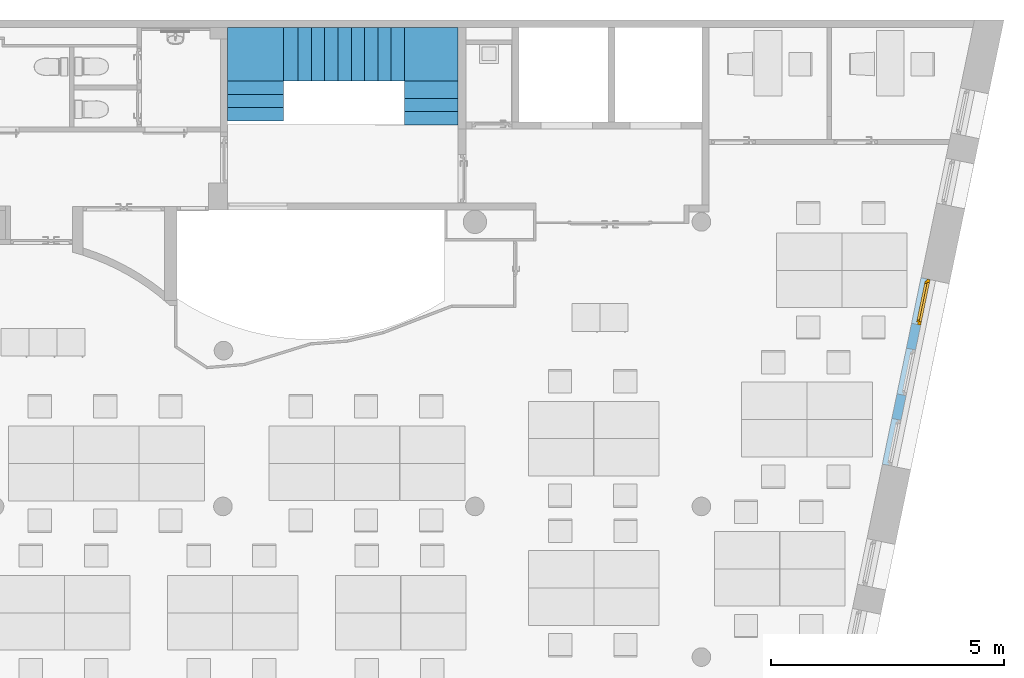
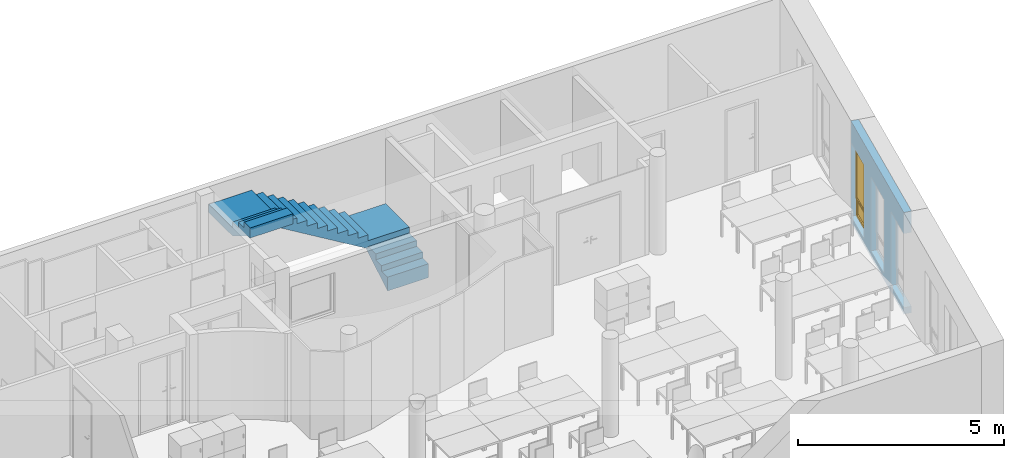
"""IFC4 building model written with IfcOpenShell, lengths in metres."""

from ifc_helpers import new_model, entity, si_unit, converted_unit, derived_unit, frame, frame_2d, origin, origin_with_axes, place, context, subcontext, project, spatial, polyline, rectangle, outline, extrude, closed_shell, open_shell, faceted_brep, surface_model, source, transform, mapped, material, layer, layer_set, layer_usage, type_object, element, fill, save


model = new_model("IFC4")

# Units and contexts
model_context = context("Model", 3, precision=1e-05, world=origin())
body_context = subcontext(model_context, "Body", "Model", "MODEL_VIEW")
ifc_project = project(units=[si_unit("LENGTHUNIT", "METRE"), si_unit("AREAUNIT", "SQUARE_METRE"), si_unit("VOLUMEUNIT", "CUBIC_METRE"), si_unit("MASSUNIT", "GRAM", prefix="KILO"), converted_unit("PLANEANGLEUNIT", "DEGREE", entity("IfcPlaneAngleMeasure", 0.0174532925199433), si_unit("PLANEANGLEUNIT", "RADIAN"), dimensions=[0, 0, 0, 0, 0, 0, 0]), derived_unit("THERMALTRANSMITTANCEUNIT", [(si_unit("POWERUNIT", "WATT"), 1), (si_unit("THERMODYNAMICTEMPERATUREUNIT", "KELVIN"), -1), (si_unit("LENGTHUNIT", "METRE"), -2)]), derived_unit("VOLUMETRICFLOWRATEUNIT", [(si_unit("LENGTHUNIT", "METRE"), 3), (converted_unit("TIMEUNIT", "hour", entity("IfcTimeMeasure", 3600.0), si_unit("TIMEUNIT", "SECOND"), dimensions=[0, 0, 1, 0, 0, 0, 0]), -1), (si_unit("LENGTHUNIT", "METRE"), -1)])], contexts=[model_context])

# Building, storeys
building_placement = place(None, origin())
building = spatial("IfcBuilding", under=ifc_project, at=building_placement, Name="HABITATGE PLURIFAMILIAR", CompositionType="ELEMENT")
storey_1_placement = place(building_placement, frame((0.0, 0.0, 18.29)))
storey_1 = spatial("IfcBuildingStorey", under=building, at=storey_1_placement, Name="PLANTA CINQUENA", CompositionType="ELEMENT", Elevation=18.29)
storey_2_placement = place(storey_1_placement, frame((0.0, 0.0, 15.28)))
storey_2 = spatial("IfcBuildingStorey", under=storey_1, at=storey_2_placement, Name="NOU", CompositionType="PARTIAL")

# Wall, openings, door
ifc_material_1 = material()
ifc_layer = layer(ifc_material_1, 0.199999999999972)
ifc_layer_set = layer_set([ifc_layer])
ifc_layer_usage = layer_usage(ifc_layer_set, "AXIS2", "POSITIVE", 0.0)
wall_placement = place(storey_2_placement, frame((425.70056364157, 22.7054025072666, -15.38), z_axis=(0.0, 0.0, 1.0), x_axis=(-0.202727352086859, -0.979235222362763, 0.0)))
wall = element("IfcWall", 1, at=wall_placement, inside=storey_2, material=ifc_layer_usage, Name="Façana sur-est P5", context=body_context, shape_type="SweptSolid", body=[
    extrude(rectangle(XDim=4.0830109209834, YDim=0.199999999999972, at=frame_2d((2.0415054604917, 0.0999999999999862), x_axis=(1.0, 0.0))), origin_with_axes(), (0.0, 0.0, 1.0), 3.01),
])
opening_1_placement = place(wall_placement, frame((4.0830109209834, 0.19999999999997, 0.19), z_axis=(-1.13686837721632e-14, -1.0, 0.0), x_axis=(0.0, 0.0, 1.0)))
element("IfcOpeningElement", 2, at=opening_1_placement, cuts=wall, Name="Vano finestra P5", ObjectType="Opening", context=body_context, shape_type="SweptSolid", body=[
    extrude(outline(polyline([(2.19, 1.0), (2.19, 0.0), (0.0, 0.0), (0.0, 1.0), (2.19, 1.0)])), origin_with_axes(), (0.0, 0.0, 1.0), 0.199999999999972),
])
opening_2_placement = place(wall_placement, frame((2.54368981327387, 0.199999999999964, 0.19), z_axis=(-1.13686837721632e-14, -1.0, 0.0), x_axis=(0.0, 0.0, 1.0)))
element("IfcOpeningElement", 3, at=opening_2_placement, cuts=wall, Name="Vano finestra P5", ObjectType="Opening", context=body_context, shape_type="SweptSolid", body=[
    extrude(outline(polyline([(2.19, 1.0), (2.19, 0.0), (0.0, 0.0), (0.0, 1.0), (2.19, 1.0)])), origin_with_axes(), (0.0, 0.0, 1.0), 0.199999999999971),
])
opening_3_placement = place(wall_placement, frame((0.999999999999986, 0.199999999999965, 0.19), z_axis=(6.82121026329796e-15, -1.0, 0.0), x_axis=(0.0, 0.0, 1.0)))
opening_3 = element("IfcOpeningElement", 4, at=opening_3_placement, cuts=wall, Name="Vano finestra P5", ObjectType="Opening", context=body_context, shape_type="SweptSolid", body=[
    extrude(outline(polyline([(2.19, 0.996324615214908), (2.19, 0.0), (0.0, 0.0), (0.0, 0.996324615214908), (2.19, 0.996324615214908)])), origin_with_axes(), (0.0, 0.0, 1.0), 0.199999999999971),
])
door_type = type_object("IfcDoorType", Name="Finestra P5", OperationType="NOTDEFINED", ParameterTakesPrecedence=False, PredefinedType="DOOR")
shared_shape = source(origin_with_axes(), body_context, "Body", "SurfaceModel", [
    surface_model("IfcShellBasedSurfaceModel", [(0.0, 0.0700000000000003, 2.19), (0.0, 0.07, 0.0), (0.07, 0.07, 0.0), (0.07, 0.0700000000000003, 2.19), (0.0, 0.0, 0.0), (0.0, 0.0, 2.19), (0.07, 0.0, 2.19), (0.07, 0.0, 0.0)], [closed_shell([[[0, 1, 2, 3]], [[4, 5, 6, 7]], [[1, 0, 5, 4]], [[2, 1, 4, 7]], [[3, 2, 7, 6]], [[0, 3, 6, 5]]], orient=[[False], [False], [False], [False], [False], [False]])]),
    surface_model("IfcShellBasedSurfaceModel", [(0.926324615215, 0.0700000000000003, 2.19), (0.926324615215, 0.07, 0.0), (0.996324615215, 0.07, 0.0), (0.996324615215, 0.0700000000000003, 2.19), (0.926324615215, 0.0, 0.0), (0.926324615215, 0.0, 2.19), (0.996324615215, 0.0, 2.19), (0.996324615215, 0.0, 0.0)], [closed_shell([[[0, 1, 2, 3]], [[4, 5, 6, 7]], [[1, 0, 5, 4]], [[2, 1, 4, 7]], [[3, 2, 7, 6]], [[0, 3, 6, 5]]], orient=[[False], [False], [False], [False], [False], [False]])]),
    surface_model("IfcShellBasedSurfaceModel", [(0.07, 0.07, 0.07), (0.07, 0.07, 0.0), (0.926324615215, 0.07, 0.0), (0.926324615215, 0.07, 0.07), (0.07, 0.0, 0.0), (0.07, 0.0, 0.07), (0.926324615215, 0.0, 0.07), (0.926324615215, 0.0, 0.0)], [closed_shell([[[0, 1, 2, 3]], [[4, 5, 6, 7]], [[1, 0, 5, 4]], [[2, 1, 4, 7]], [[3, 2, 7, 6]], [[0, 3, 6, 5]]], orient=[[False], [False], [False], [False], [False], [False]])]),
    surface_model("IfcShellBasedSurfaceModel", [(0.07, 0.0700000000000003, 2.19), (0.07, 0.0700000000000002, 2.12), (0.926324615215, 0.0700000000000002, 2.12), (0.926324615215, 0.0700000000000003, 2.19), (0.07, 0.0, 2.12), (0.07, 0.0, 2.19), (0.926324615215, 0.0, 2.19), (0.926324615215, 0.0, 2.12)], [closed_shell([[[0, 1, 2, 3]], [[4, 5, 6, 7]], [[1, 0, 5, 4]], [[2, 1, 4, 7]], [[3, 2, 7, 6]], [[0, 3, 6, 5]]], orient=[[False], [False], [False], [False], [False], [False]])]),
    surface_model("IfcShellBasedSurfaceModel", [(0.07, 0.035, 0.07), (0.926324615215, 0.035, 0.07), (0.926324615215, 0.0350000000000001, 0.57), (0.07, 0.0350000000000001, 0.57)], [open_shell([[[0, 1, 2, 3]]], orient=[[False]])]),
    surface_model("IfcShellBasedSurfaceModel", [(0.05, 0.1, 2.14), (0.05, 0.1, 0.551), (0.1, 0.1, 0.551), (0.1, 0.1, 2.14), (0.05, 0.0500000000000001, 0.551), (0.05, 0.0500000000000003, 2.14), (0.1, 0.0500000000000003, 2.14), (0.1, 0.0500000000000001, 0.551)], [closed_shell([[[0, 1, 2, 3]], [[4, 5, 6, 7]], [[1, 0, 5, 4]], [[2, 1, 4, 7]], [[3, 2, 7, 6]], [[0, 3, 6, 5]]], orient=[[False], [False], [False], [False], [False], [False]])]),
    surface_model("IfcShellBasedSurfaceModel", [(0.896324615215, 0.1, 2.14), (0.896324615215, 0.1, 0.551), (0.946324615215, 0.1, 0.551), (0.946324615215, 0.1, 2.14), (0.896324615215, 0.0500000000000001, 0.551), (0.896324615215, 0.0500000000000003, 2.14), (0.946324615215, 0.0500000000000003, 2.14), (0.946324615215, 0.0500000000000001, 0.551)], [closed_shell([[[0, 1, 2, 3]], [[4, 5, 6, 7]], [[1, 0, 5, 4]], [[2, 1, 4, 7]], [[3, 2, 7, 6]], [[0, 3, 6, 5]]], orient=[[False], [False], [False], [False], [False], [False]])]),
    surface_model("IfcShellBasedSurfaceModel", [(0.1, 0.1, 0.601), (0.1, 0.1, 0.551), (0.896324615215, 0.1, 0.551), (0.896324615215, 0.1, 0.601), (0.1, 0.0500000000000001, 0.551), (0.1, 0.0500000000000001, 0.601), (0.896324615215, 0.0500000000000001, 0.601), (0.896324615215, 0.0500000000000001, 0.551)], [closed_shell([[[0, 1, 2, 3]], [[4, 5, 6, 7]], [[1, 0, 5, 4]], [[2, 1, 4, 7]], [[3, 2, 7, 6]], [[0, 3, 6, 5]]], orient=[[False], [False], [False], [False], [False], [False]])]),
    surface_model("IfcShellBasedSurfaceModel", [(0.1, 0.1, 2.14), (0.1, 0.1, 2.09), (0.896324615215, 0.1, 2.09), (0.896324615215, 0.1, 2.14), (0.1, 0.0500000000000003, 2.09), (0.1, 0.0500000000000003, 2.14), (0.896324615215, 0.0500000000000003, 2.14), (0.896324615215, 0.0500000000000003, 2.09)], [closed_shell([[[0, 1, 2, 3]], [[4, 5, 6, 7]], [[1, 0, 5, 4]], [[2, 1, 4, 7]], [[3, 2, 7, 6]], [[0, 3, 6, 5]]], orient=[[False], [False], [False], [False], [False], [False]])]),
    surface_model("IfcShellBasedSurfaceModel", [(0.1, 0.0750000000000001, 0.601), (0.896324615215, 0.0750000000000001, 0.601), (0.896324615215, 0.0750000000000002, 2.09), (0.1, 0.0750000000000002, 2.09)], [open_shell([[[0, 1, 2, 3]]], orient=[[False]])]),
])
door_placement = place(opening_3_placement, frame((0.0, 0.0, 0.0), z_axis=(1.0, 0.0, 0.0), x_axis=(0.0, 0.999999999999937, -6.13120665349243e-14)))
door = element("IfcDoor", 5, at=door_placement, inside=storey_2, type_object=door_type, Name="Finestra P5", OverallHeight=2.19, OverallWidth=0.99632, context=body_context, shape_type="MappedRepresentation", body=[
    mapped(shared_shape, transform((0.0, 0.0, 0.0), x_axis=(1.0, 0.0, 0.0), y_axis=(0.0, 1.0, 0.0), z_axis=(0.0, 0.0, 1.0), scale=0.999999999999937)),
])
fill(opening_3, door)

# Stair
ifc_material_2 = material(Name="*varios*")
stair_placement = place(storey_2_placement, frame((410.827766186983, 25.9803256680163, -15.5182362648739)))
element("IfcStair", 6, at=stair_placement, inside=storey_2, material=ifc_material_2, Name="Peldaño final", PredefinedType="USERDEFINED", context=body_context, shape_type="Brep", body=[
    faceted_brep([(3.79890759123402, 0.00017129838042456, 0.369412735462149), (3.79890759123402, 0.00017129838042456, 0.409412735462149), (4.94890757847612, 0.0, 0.409412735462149), (4.94890757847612, 0.0, 0.369412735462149), (4.94895003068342, 0.28499999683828, 0.409412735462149), (4.94895003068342, 0.28499999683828, 0.369412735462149), (3.79895004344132, 0.285171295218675, 0.409412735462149), (3.79895004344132, 0.285171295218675, 0.369412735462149)], [[[0, 1, 2, 3]], [[3, 2, 4, 5]], [[5, 4, 6, 7]], [[7, 6, 1, 0]], [[0, 3, 5, 7]], [[1, 6, 4, 2]]], orient=[[False], [False], [False], [False], [False], [False]]),
    faceted_brep([(3.79895004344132, 0.285171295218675, 0.540589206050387), (3.79895004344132, 0.285171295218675, 0.580589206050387), (4.94895003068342, 0.28499999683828, 0.580589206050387), (4.94895003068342, 0.28499999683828, 0.540589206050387), (4.94899248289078, 0.569999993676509, 0.580589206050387), (4.94899248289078, 0.569999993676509, 0.540589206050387), (3.79899249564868, 0.57017129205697, 0.580589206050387), (3.79899249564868, 0.57017129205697, 0.540589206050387)], [[[0, 1, 2, 3]], [[3, 2, 4, 5]], [[5, 4, 6, 7]], [[7, 6, 1, 0]], [[0, 3, 5, 7]], [[1, 6, 4, 2]]], orient=[[False], [False], [False], [False], [False], [False]]),
    faceted_brep([(3.79899249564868, 0.57017129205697, 0.711765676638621), (3.79899249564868, 0.57017129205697, 0.751765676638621), (4.94899248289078, 0.569999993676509, 0.751765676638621), (4.94899248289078, 0.569999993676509, 0.711765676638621), (4.9490472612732, 0.937750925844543, 0.751765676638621), (4.9490472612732, 0.937750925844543, 0.711765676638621), (3.79904727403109, 0.937922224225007, 0.751765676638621), (3.79904727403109, 0.937922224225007, 0.711765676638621)], [[[0, 1, 2, 3]], [[3, 2, 4, 5]], [[5, 4, 6, 7]], [[7, 6, 1, 0]], [[0, 3, 5, 7]], [[1, 6, 4, 2]]], orient=[[False], [False], [False], [False], [False], [False]]),
    faceted_brep([(4.9490472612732, 0.937750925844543, 0.711765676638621), (4.94899248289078, 0.569999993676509, 0.711765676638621), (3.79899249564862, 0.57017129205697, 0.711765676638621), (3.79904727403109, 0.937922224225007, 0.711765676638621), (4.94890757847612, 0.0, 0.0), (4.94890757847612, 0.0, 0.369412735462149), (4.94895003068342, 0.28499999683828, 0.369412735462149), (4.94895003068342, 0.28499999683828, 0.540589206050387), (4.94899248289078, 0.569999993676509, 0.540589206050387), (4.9490472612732, 0.937750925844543, 0.682942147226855), (4.94907694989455, 1.13706345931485, 0.682942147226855), (3.79899249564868, 0.57017129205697, 0.540589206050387), (3.79907696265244, 1.13723475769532, 0.682942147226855), (3.79904727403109, 0.937922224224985, 0.682942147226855), (3.79895004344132, 0.285171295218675, 0.540589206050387), (3.79895004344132, 0.285171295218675, 0.369412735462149), (3.79890759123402, 0.00017129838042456, 0.369412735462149), (3.79890759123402, 0.00017129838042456, 0.0)], [[[0, 1, 2, 3]], [[4, 5, 6, 7, 8, 1, 0, 9, 10]], [[1, 8, 11, 2]], [[12, 13, 3, 2, 11, 14, 15, 16, 17]], [[12, 17, 4, 10]], [[13, 12, 10, 9]], [[8, 7, 14, 11]], [[7, 6, 15, 14]], [[6, 5, 16, 15]], [[5, 4, 17, 16]], [[13, 9, 0, 3]]], orient=[[False], [False], [False], [False], [False], [False], [False], [False], [False], [False], [False]]),
    faceted_brep([(3.79904727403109, 0.937922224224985, 0.882942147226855), (3.79904727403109, 0.937922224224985, 0.922942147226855), (4.9490472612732, 0.937750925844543, 0.922942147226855), (4.9490472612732, 0.937750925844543, 0.882942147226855), (4.94921858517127, 2.08792222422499, 0.922942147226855), (4.94921858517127, 2.08792222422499, 0.882942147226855), (3.79904727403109, 2.08792222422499, 0.922942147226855), (3.79904727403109, 2.08792222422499, 0.882942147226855)], [[[0, 1, 2, 3]], [[3, 2, 4, 5]], [[5, 4, 6, 7]], [[7, 6, 1, 0]], [[0, 3, 5, 7]], [[1, 6, 4, 2]]], orient=[[False], [False], [False], [False], [False], [False]]),
    faceted_brep([(3.79904727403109, 0.937922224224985, 0.682942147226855), (3.79904727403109, 0.937922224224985, 0.882942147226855), (4.9490472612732, 0.937750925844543, 0.882942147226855), (4.9490472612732, 0.937750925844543, 0.682942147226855), (4.94921858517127, 2.08792222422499, 0.882942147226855), (4.94921858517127, 2.08792222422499, 0.682942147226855), (3.79904727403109, 2.08792222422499, 0.882942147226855), (3.79904727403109, 2.08792222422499, 0.682942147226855)], [[[0, 1, 2, 3]], [[3, 2, 4, 5]], [[5, 4, 6, 7]], [[7, 6, 1, 0]], [[0, 3, 5, 7]], [[1, 6, 4, 2]]], orient=[[False], [False], [False], [False], [False], [False]]),
    faceted_brep([(3.79904727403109, 0.937922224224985, 1.05411861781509), (3.79904727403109, 0.937922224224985, 1.09411861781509), (3.79904727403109, 2.08792222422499, 1.09411861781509), (3.79904727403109, 2.08792222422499, 1.05411861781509), (3.51404727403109, 2.08792222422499, 1.09411861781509), (3.51404727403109, 2.08792222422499, 1.05411861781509), (3.51404727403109, 0.937922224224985, 1.09411861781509), (3.51404727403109, 0.937922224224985, 1.05411861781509)], [[[0, 1, 2, 3]], [[3, 2, 4, 5]], [[5, 4, 6, 7]], [[7, 6, 1, 0]], [[0, 3, 5, 7]], [[1, 6, 4, 2]]], orient=[[False], [False], [False], [False], [False], [False]]),
    faceted_brep([(3.51404727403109, 0.937922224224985, 1.22529508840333), (3.51404727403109, 0.937922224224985, 1.26529508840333), (3.51404727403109, 2.08792222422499, 1.26529508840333), (3.51404727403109, 2.08792222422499, 1.22529508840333), (3.22904727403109, 2.08792222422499, 1.26529508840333), (3.22904727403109, 2.08792222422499, 1.22529508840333), (3.22904727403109, 0.937922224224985, 1.26529508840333), (3.22904727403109, 0.937922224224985, 1.22529508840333)], [[[0, 1, 2, 3]], [[3, 2, 4, 5]], [[5, 4, 6, 7]], [[7, 6, 1, 0]], [[0, 3, 5, 7]], [[1, 6, 4, 2]]], orient=[[False], [False], [False], [False], [False], [False]]),
    faceted_brep([(3.22904727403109, 0.937922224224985, 1.39647155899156), (3.22904727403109, 0.937922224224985, 1.43647155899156), (3.22904727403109, 2.08792222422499, 1.43647155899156), (3.22904727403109, 2.08792222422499, 1.39647155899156), (2.94404727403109, 2.08792222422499, 1.43647155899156), (2.94404727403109, 2.08792222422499, 1.39647155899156), (2.94404727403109, 0.937922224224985, 1.43647155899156), (2.94404727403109, 0.937922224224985, 1.39647155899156)], [[[0, 1, 2, 3]], [[3, 2, 4, 5]], [[5, 4, 6, 7]], [[7, 6, 1, 0]], [[0, 3, 5, 7]], [[1, 6, 4, 2]]], orient=[[False], [False], [False], [False], [False], [False]]),
    faceted_brep([(2.94404727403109, 0.937922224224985, 1.5676480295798), (2.94404727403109, 0.937922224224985, 1.6076480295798), (2.94404727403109, 2.08792222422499, 1.6076480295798), (2.94404727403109, 2.08792222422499, 1.5676480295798), (2.65904727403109, 2.08792222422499, 1.6076480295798), (2.65904727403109, 2.08792222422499, 1.5676480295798), (2.65904727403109, 0.937922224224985, 1.6076480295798), (2.65904727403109, 0.937922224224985, 1.5676480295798)], [[[0, 1, 2, 3]], [[3, 2, 4, 5]], [[5, 4, 6, 7]], [[7, 6, 1, 0]], [[0, 3, 5, 7]], [[1, 6, 4, 2]]], orient=[[False], [False], [False], [False], [False], [False]]),
    faceted_brep([(2.65904727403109, 0.937922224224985, 1.73882450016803), (2.65904727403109, 0.937922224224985, 1.77882450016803), (2.65904727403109, 2.08792222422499, 1.77882450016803), (2.65904727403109, 2.08792222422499, 1.73882450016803), (2.37404727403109, 2.08792222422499, 1.77882450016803), (2.37404727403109, 2.08792222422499, 1.73882450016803), (2.37404727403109, 0.937922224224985, 1.77882450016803), (2.37404727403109, 0.937922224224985, 1.73882450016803)], [[[0, 1, 2, 3]], [[3, 2, 4, 5]], [[5, 4, 6, 7]], [[7, 6, 1, 0]], [[0, 3, 5, 7]], [[1, 6, 4, 2]]], orient=[[False], [False], [False], [False], [False], [False]]),
    faceted_brep([(2.37404727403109, 0.937922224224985, 1.91000097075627), (2.37404727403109, 0.937922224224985, 1.95000097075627), (2.37404727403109, 2.08792222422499, 1.95000097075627), (2.37404727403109, 2.08792222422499, 1.91000097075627), (2.08904727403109, 2.08792222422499, 1.95000097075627), (2.08904727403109, 2.08792222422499, 1.91000097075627), (2.08904727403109, 0.937922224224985, 1.95000097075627), (2.08904727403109, 0.937922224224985, 1.91000097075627)], [[[0, 1, 2, 3]], [[3, 2, 4, 5]], [[5, 4, 6, 7]], [[7, 6, 1, 0]], [[0, 3, 5, 7]], [[1, 6, 4, 2]]], orient=[[False], [False], [False], [False], [False], [False]]),
    faceted_brep([(2.08904727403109, 0.937922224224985, 2.0811774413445), (2.08904727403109, 0.937922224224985, 2.1211774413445), (2.08904727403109, 2.08792222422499, 2.1211774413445), (2.08904727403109, 2.08792222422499, 2.0811774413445), (1.80404727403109, 2.08792222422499, 2.1211774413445), (1.80404727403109, 2.08792222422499, 2.0811774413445), (1.80404727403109, 0.937922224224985, 2.1211774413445), (1.80404727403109, 0.937922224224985, 2.0811774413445)], [[[0, 1, 2, 3]], [[3, 2, 4, 5]], [[5, 4, 6, 7]], [[7, 6, 1, 0]], [[0, 3, 5, 7]], [[1, 6, 4, 2]]], orient=[[False], [False], [False], [False], [False], [False]]),
    faceted_brep([(1.80404727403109, 0.937922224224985, 2.25235391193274), (1.80404727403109, 0.937922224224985, 2.29235391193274), (1.80404727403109, 2.08792222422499, 2.29235391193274), (1.80404727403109, 2.08792222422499, 2.25235391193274), (1.51904727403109, 2.08792222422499, 2.29235391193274), (1.51904727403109, 2.08792222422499, 2.25235391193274), (1.51904727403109, 0.937922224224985, 2.29235391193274), (1.51904727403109, 0.937922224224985, 2.25235391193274)], [[[0, 1, 2, 3]], [[3, 2, 4, 5]], [[5, 4, 6, 7]], [[7, 6, 1, 0]], [[0, 3, 5, 7]], [[1, 6, 4, 2]]], orient=[[False], [False], [False], [False], [False], [False]]),
    faceted_brep([(1.51904727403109, 0.937922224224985, 2.42353038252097), (1.51904727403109, 0.937922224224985, 2.46353038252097), (1.51904727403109, 2.08792222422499, 2.46353038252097), (1.51904727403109, 2.08792222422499, 2.42353038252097), (1.19984509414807, 2.08792222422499, 2.46353038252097), (1.19984509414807, 2.08792222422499, 2.42353038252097), (1.19984509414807, 0.937922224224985, 2.46353038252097), (1.19984509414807, 0.937922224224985, 2.42353038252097)], [[[0, 1, 2, 3]], [[3, 2, 4, 5]], [[5, 4, 6, 7]], [[7, 6, 1, 0]], [[0, 3, 5, 7]], [[1, 6, 4, 2]]], orient=[[False], [False], [False], [False], [False], [False]]),
    faceted_brep([(1.19984509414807, 2.08792222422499, 2.42353038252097), (1.51904727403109, 2.08792222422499, 2.42353038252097), (1.51904727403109, 0.937922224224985, 2.42353038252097), (1.19984509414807, 0.937922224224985, 2.42353038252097), (3.79904727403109, 2.08792222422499, 0.684705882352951), (3.79904727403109, 2.08792222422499, 1.05411861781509), (3.51404727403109, 2.08792222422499, 1.05411861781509), (3.51404727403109, 2.08792222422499, 1.22529508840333), (3.22904727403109, 2.08792222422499, 1.22529508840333), (3.22904727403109, 2.08792222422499, 1.39647155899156), (2.94404727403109, 2.08792222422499, 1.39647155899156), (2.94404727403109, 2.08792222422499, 1.5676480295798), (2.65904727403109, 2.08792222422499, 1.5676480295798), (2.65904727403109, 2.08792222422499, 1.73882450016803), (2.37404727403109, 2.08792222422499, 1.73882450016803), (2.37404727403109, 2.08792222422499, 1.91000097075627), (2.08904727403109, 2.08792222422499, 1.91000097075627), (2.08904727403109, 2.08792222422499, 2.0811774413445), (1.80404727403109, 2.08792222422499, 2.0811774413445), (1.80404727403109, 2.08792222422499, 2.25235391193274), (1.51904727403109, 2.08792222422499, 2.25235391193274), (1.19984509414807, 2.08792222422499, 2.39470685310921), (0.951983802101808, 2.08792222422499, 2.39470685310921), (1.51904727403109, 0.937922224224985, 2.25235391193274), (0.951983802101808, 0.937922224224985, 2.39470685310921), (1.19984509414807, 0.937922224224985, 2.39470685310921), (1.80404727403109, 0.937922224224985, 2.25235391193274), (1.80404727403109, 0.937922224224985, 2.0811774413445), (2.08904727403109, 0.937922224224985, 2.0811774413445), (2.08904727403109, 0.937922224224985, 1.91000097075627), (2.37404727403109, 0.937922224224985, 1.91000097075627), (2.37404727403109, 0.937922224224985, 1.73882450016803), (2.65904727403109, 0.937922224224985, 1.73882450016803), (2.65904727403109, 0.937922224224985, 1.5676480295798), (2.94404727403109, 0.937922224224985, 1.5676480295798), (2.94404727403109, 0.937922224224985, 1.39647155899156), (3.22904727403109, 0.937922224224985, 1.39647155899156), (3.22904727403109, 0.937922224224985, 1.22529508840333), (3.51404727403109, 0.937922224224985, 1.22529508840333), (3.51404727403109, 0.937922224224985, 1.05411861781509), (3.79904727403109, 0.937922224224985, 1.05411861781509), (3.79904727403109, 0.937922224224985, 0.684705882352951)], [[[0, 1, 2, 3]], [[4, 5, 6, 7, 8, 9, 10, 11, 12, 13, 14, 15, 16, 17, 18, 19, 20, 1, 0, 21, 22]], [[1, 20, 23, 2]], [[24, 25, 3, 2, 23, 26, 27, 28, 29, 30, 31, 32, 33, 34, 35, 36, 37, 38, 39, 40, 41]], [[24, 41, 4, 22]], [[25, 24, 22, 21]], [[20, 19, 26, 23]], [[19, 18, 27, 26]], [[18, 17, 28, 27]], [[17, 16, 29, 28]], [[16, 15, 30, 29]], [[15, 14, 31, 30]], [[14, 13, 32, 31]], [[13, 12, 33, 32]], [[12, 11, 34, 33]], [[11, 10, 35, 34]], [[10, 9, 36, 35]], [[9, 8, 37, 36]], [[8, 7, 38, 37]], [[7, 6, 39, 38]], [[6, 5, 40, 39]], [[5, 4, 41, 40]], [[25, 21, 0, 3]]], orient=[[False], [False], [False], [False], [False], [False], [False], [False], [False], [False], [False], [False], [False], [False], [False], [False], [False], [False], [False], [False], [False], [False], [False]]),
    faceted_brep([(1.19984509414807, 0.937922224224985, 2.59470685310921), (1.19984509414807, 0.937922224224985, 2.63470685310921), (1.19984509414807, 2.08792222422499, 2.63470685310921), (1.19984509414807, 2.08792222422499, 2.59470685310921), (0.0, 2.08792222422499, 2.63470685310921), (0.0, 2.08792222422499, 2.59470685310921), (0.0, 0.937922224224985, 2.63470685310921), (0.0, 0.937922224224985, 2.59470685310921)], [[[0, 1, 2, 3]], [[3, 2, 4, 5]], [[5, 4, 6, 7]], [[7, 6, 1, 0]], [[0, 3, 5, 7]], [[1, 6, 4, 2]]], orient=[[False], [False], [False], [False], [False], [False]]),
    faceted_brep([(1.19984509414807, 0.937922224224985, 2.39470685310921), (1.19984509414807, 0.937922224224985, 2.59470685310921), (1.19984509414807, 2.08792222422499, 2.59470685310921), (1.19984509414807, 2.08792222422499, 2.39470685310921), (0.0, 2.08792222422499, 2.59470685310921), (0.0, 2.08792222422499, 2.39470685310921), (0.0, 0.937922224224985, 2.59470685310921), (0.0, 0.937922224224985, 2.39470685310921)], [[[0, 1, 2, 3]], [[3, 2, 4, 5]], [[5, 4, 6, 7]], [[7, 6, 1, 0]], [[0, 3, 5, 7]], [[1, 6, 4, 2]]], orient=[[False], [False], [False], [False], [False], [False]]),
    faceted_brep([(1.19984509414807, 0.937922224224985, 2.76588332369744), (1.19984509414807, 0.937922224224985, 2.80588332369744), (0.0, 0.937922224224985, 2.80588332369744), (0.0, 0.937922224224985, 2.76588332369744), (0.0, 0.652922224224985, 2.80588332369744), (0.0, 0.652922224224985, 2.76588332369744), (1.19984509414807, 0.652922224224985, 2.80588332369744), (1.19984509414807, 0.652922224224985, 2.76588332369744)], [[[0, 1, 2, 3]], [[3, 2, 4, 5]], [[5, 4, 6, 7]], [[7, 6, 1, 0]], [[0, 3, 5, 7]], [[1, 6, 4, 2]]], orient=[[False], [False], [False], [False], [False], [False]]),
    faceted_brep([(1.19984509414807, 0.652922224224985, 2.93705979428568), (1.19984509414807, 0.652922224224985, 2.97705979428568), (0.0, 0.652922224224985, 2.97705979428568), (0.0, 0.652922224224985, 2.93705979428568), (0.0, 0.367922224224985, 2.97705979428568), (0.0, 0.367922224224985, 2.93705979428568), (1.19984509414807, 0.367922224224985, 2.97705979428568), (1.19984509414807, 0.367922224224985, 2.93705979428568)], [[[0, 1, 2, 3]], [[3, 2, 4, 5]], [[5, 4, 6, 7]], [[7, 6, 1, 0]], [[0, 3, 5, 7]], [[1, 6, 4, 2]]], orient=[[False], [False], [False], [False], [False], [False]]),
    faceted_brep([(1.19984509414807, 0.367922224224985, 3.10823626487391), (1.19984509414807, 0.367922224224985, 3.14823626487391), (0.0, 0.367922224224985, 3.14823626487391), (0.0, 0.367922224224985, 3.10823626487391), (0.0, 0.0829222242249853, 3.14823626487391), (0.0, 0.0829222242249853, 3.10823626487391), (1.19984509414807, 0.0829222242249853, 3.14823626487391), (1.19984509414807, 0.0829222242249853, 3.10823626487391)], [[[0, 1, 2, 3]], [[3, 2, 4, 5]], [[5, 4, 6, 7]], [[7, 6, 1, 0]], [[0, 3, 5, 7]], [[1, 6, 4, 2]]], orient=[[False], [False], [False], [False], [False], [False]]),
    faceted_brep([(0.0, 0.0829222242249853, 3.10823626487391), (0.0, 0.367922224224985, 3.10823626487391), (1.19984509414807, 0.367922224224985, 3.10823626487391), (1.19984509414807, 0.0829222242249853, 3.10823626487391), (0.0, 0.937922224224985, 2.39647058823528), (0.0, 0.937922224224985, 2.76588332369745), (0.0, 0.652922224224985, 2.76588332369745), (0.0, 0.652922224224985, 2.93705979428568), (0.0, 0.367922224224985, 2.93705979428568), (0.0, 0.0829222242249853, 2.84823626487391), (0.0, 0.185755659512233, 2.84823626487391), (1.19984509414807, 0.367922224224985, 2.93705979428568), (1.19984509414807, 0.185755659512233, 2.84823626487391), (1.19984509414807, 0.0829222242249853, 2.84823626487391), (1.19984509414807, 0.652922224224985, 2.93705979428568), (1.19984509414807, 0.652922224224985, 2.76588332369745), (1.19984509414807, 0.937922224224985, 2.76588332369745), (1.19984509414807, 0.937922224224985, 2.39647058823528)], [[[0, 1, 2, 3]], [[4, 5, 6, 7, 8, 1, 0, 9, 10]], [[1, 8, 11, 2]], [[12, 13, 3, 2, 11, 14, 15, 16, 17]], [[12, 17, 4, 10]], [[13, 12, 10, 9]], [[8, 7, 14, 11]], [[7, 6, 15, 14]], [[6, 5, 16, 15]], [[5, 4, 17, 16]], [[13, 9, 0, 3]]], orient=[[False], [False], [False], [False], [False], [False], [False], [False], [False], [False], [False]]),
])

save(model, "model.ifc")
